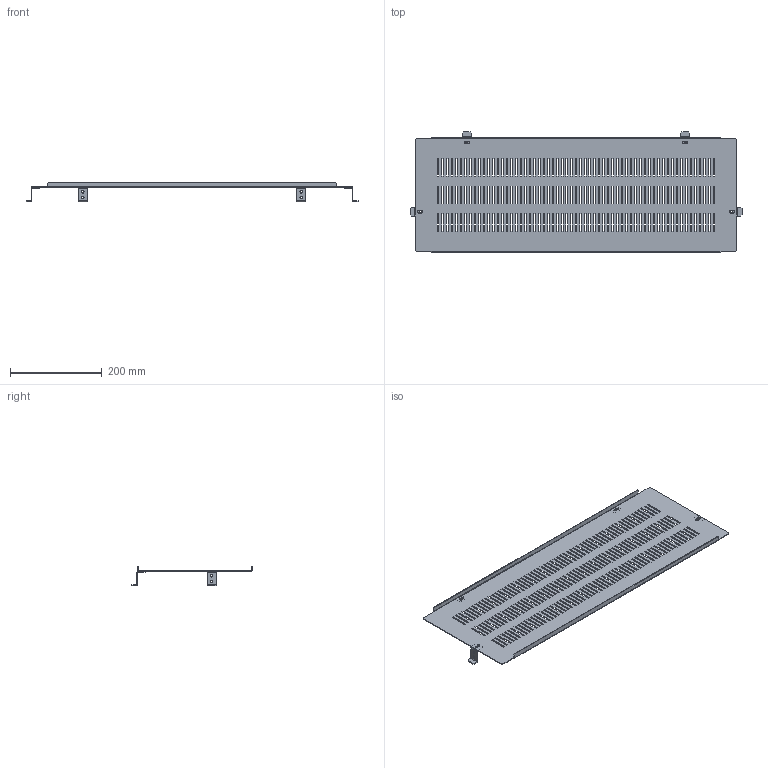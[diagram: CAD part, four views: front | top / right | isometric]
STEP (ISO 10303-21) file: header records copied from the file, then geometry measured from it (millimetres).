
FILE_DESCRIPTION(('CAx-IF Rec.Pracs.---Model Styling and Organization---1.2---2011-12-15','CAx-IF Rec.Pracs.---Geometric and Assembly Validation Properties---4.1---2014-06-16','CAx-IF Rec.Pracs.---PMI Polyline Presentation---2.0---2013-05-24'),'2;1');
FILE_NAME('R5SBBF830.stp','2021-05-06T03:00:29+03:00',(''),(''),'STEP Interface 4.4 by CT CoreTechnologie','3D_Evolution4.4 by CT CoreTechnologie','');
FILE_SCHEMA(('AUTOMOTIVE_DESIGN { 1 0 10303 214 1 1 1 1 }'));
Length unit declared in the file: millimetre
Products named in the file (3): R5SBBF830; RB.0521.00.00.0_-00; RB.0519.00.00.0_-03
Assembly tree (5 placements, depth 2):
  R5SBBF830
    RB.0521.00.00.0_-00  x4
    RB.0519.00.00.0_-03
Bounding box: 722 x 261.5 x 43 mm (x, y, z)
Surface area: 357942.4 mm2 (no closed solid volume)
Topology: 0 solids, 5 shells, 887 faces, 2605 edges, 1728 vertices
Faces by surface type: plane 831, cylinder 56
Entity records: 27473 total; most frequent: CARTESIAN_POINT 4812, ORIENTED_EDGE 4802, DIRECTION 4083, EDGE_CURVE 2401, VECTOR 2349, LINE 2349, VERTEX_POINT 1596, EDGE_LOOP 1189
